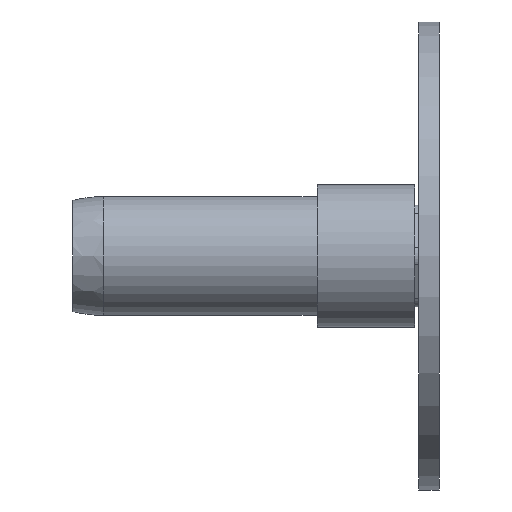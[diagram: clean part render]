
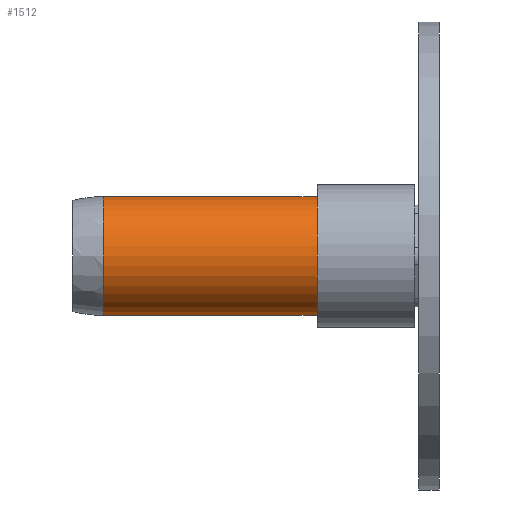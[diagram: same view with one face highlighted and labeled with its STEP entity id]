
A CAD part, front view. The second image highlights one B-rep face of the part: STEP entity #1512.
In plain terms, the highlighted cylindrical face has radius 9.271 mm (diameter 18.542 mm), a partial arc.
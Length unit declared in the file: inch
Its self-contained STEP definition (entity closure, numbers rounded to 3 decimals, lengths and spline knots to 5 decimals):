
#17 = CARTESIAN_POINT ( 'NONE',  ( -4.08081, 0.46305, 1.0165 ) ) ;
#73 = CARTESIAN_POINT ( 'NONE',  ( -3.89331, 0.46305, 1.0165 ) ) ;
#222 = CARTESIAN_POINT ( 'NONE',  ( -2.58081, 0.46305, 0.2865 ) ) ;
#499 = ORIENTED_EDGE ( 'NONE', *, *, #2502, .T. ) ;
#575 = CARTESIAN_POINT ( 'NONE',  ( -4.08081, 0.46305, 0.6515 ) ) ;
#623 = EDGE_CURVE ( 'NONE', #828, #2109, #1957, .T. ) ;
#828 = VERTEX_POINT ( 'NONE', #222 ) ;
#836 = CARTESIAN_POINT ( 'NONE',  ( -2.58081, 0.46305, 0.6515 ) ) ;
#878 = DIRECTION ( 'NONE',  ( -1., 0., 0. ) ) ;
#901 = CYLINDRICAL_SURFACE ( 'NONE', #2152, 0.365 ) ;
#1120 = DIRECTION ( 'NONE',  ( 0., 0., 1. ) ) ;
#1142 = VERTEX_POINT ( 'NONE', #73 ) ;
#1188 = CARTESIAN_POINT ( 'NONE',  ( -2.58081, 0.46305, 1.0165 ) ) ;
#1430 = CARTESIAN_POINT ( 'NONE',  ( -4.08081, 0.46305, 0.2865 ) ) ;
#1512 = ADVANCED_FACE ( 'NONE', ( #3259 ), #901, .T. ) ;
#1520 = CARTESIAN_POINT ( 'NONE',  ( -3.89331, 0.46305, 0.6515 ) ) ;
#1589 = AXIS2_PLACEMENT_3D ( 'NONE', #1520, #3595, #1812 ) ;
#1610 = CIRCLE ( 'NONE', #1589, 0.365 ) ;
#1704 = VECTOR ( 'NONE', #2369, 39.37008 ) ;
#1742 = DIRECTION ( 'NONE',  ( 0., 0., 1. ) ) ;
#1746 = EDGE_LOOP ( 'NONE', ( #2989, #3684, #499, #3754 ) ) ;
#1812 = DIRECTION ( 'NONE',  ( 0., 0., 1. ) ) ;
#1957 = CIRCLE ( 'NONE', #3163, 0.365 ) ;
#1977 = VECTOR ( 'NONE', #3514, 39.37008 ) ;
#2042 = CARTESIAN_POINT ( 'NONE',  ( -3.89331, 0.46305, 0.2865 ) ) ;
#2109 = VERTEX_POINT ( 'NONE', #1188 ) ;
#2152 = AXIS2_PLACEMENT_3D ( 'NONE', #575, #878, #1742 ) ;
#2369 = DIRECTION ( 'NONE',  ( -1., 0., 0. ) ) ;
#2374 = EDGE_CURVE ( 'NONE', #828, #3590, #3562, .T. ) ;
#2502 = EDGE_CURVE ( 'NONE', #2109, #1142, #3283, .T. ) ;
#2627 = EDGE_CURVE ( 'NONE', #1142, #3590, #1610, .T. ) ;
#2894 = DIRECTION ( 'NONE',  ( -1., 0., 0. ) ) ;
#2989 = ORIENTED_EDGE ( 'NONE', *, *, #2374, .F. ) ;
#3163 = AXIS2_PLACEMENT_3D ( 'NONE', #836, #2894, #1120 ) ;
#3259 = FACE_OUTER_BOUND ( 'NONE', #1746, .T. ) ;
#3283 = LINE ( 'NONE', #17, #1704 ) ;
#3514 = DIRECTION ( 'NONE',  ( -1., 0., 0. ) ) ;
#3562 = LINE ( 'NONE', #1430, #1977 ) ;
#3590 = VERTEX_POINT ( 'NONE', #2042 ) ;
#3595 = DIRECTION ( 'NONE',  ( 1., 0., 0. ) ) ;
#3684 = ORIENTED_EDGE ( 'NONE', *, *, #623, .T. ) ;
#3754 = ORIENTED_EDGE ( 'NONE', *, *, #2627, .T. ) ;
